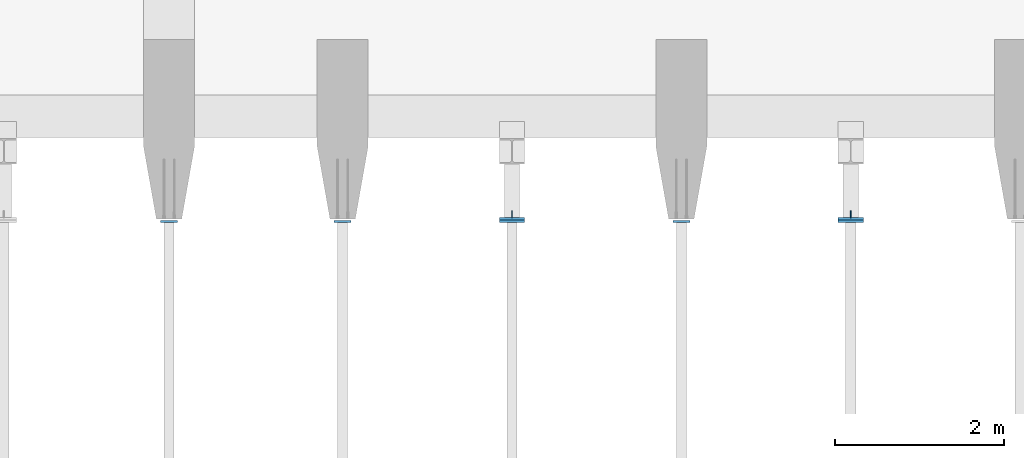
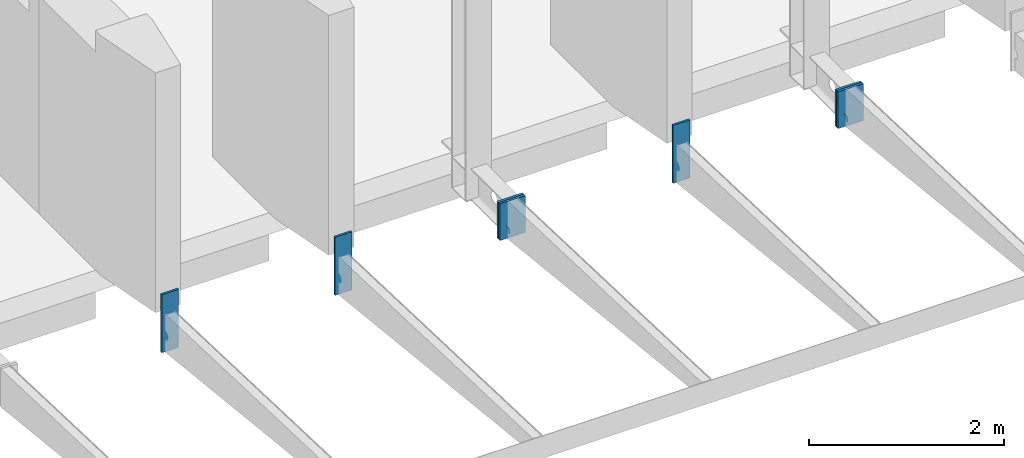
# One storey, part 4 of 27: 9 columns.
"""IFC2X3 building model written with IfcOpenShell, lengths in millimetres."""

import ifcopenshell
import ifcopenshell.guid

model = None  # the IFC model being written
_history = None  # IfcOwnerHistory: only IFC2X3 demands one
_inside = {}  # id of a spatial element -> (the spatial element, [elements in it])
_under = {}  # id of a project, library or spatial element -> (it, [spatial elements below it])
_declared = {}  # id of a project -> (the project, [libraries it declares])
_typed = {}  # id of a type object -> (the type object, [elements of that type])
_made_of = {}  # id of a material, layer set ... -> (it, [elements and type objects made of it])


def new_model(schema):
    """Start an empty IFC model of exactly this schema.

    Asked for "IFC4X3", IfcOpenShell would pick the latest addendum, in which some entities
    have other attributes; the version numbers below select the first issue.
    IFC2X3 requires an IfcOwnerHistory on every rooted entity: one is made here for all.
    """
    global model, _history
    if schema == "IFC4X3":
        model = ifcopenshell.file(schema_version=(4, 3, 0, 0))
    else:
        model = ifcopenshell.file(schema=schema)
    _inside.clear()
    _under.clear()
    _declared.clear()
    _typed.clear()
    _made_of.clear()
    _history = None
    if model.schema == "IFC2X3":
        org = make("IfcOrganization", Name="unknown")
        user = make(
            "IfcPersonAndOrganization",
            ThePerson=make("IfcPerson", FamilyName="unknown"),
            TheOrganization=org,
        )
        app = make(
            "IfcApplication",
            ApplicationDeveloper=org,
            Version="unknown",
            ApplicationFullName="unknown",
            ApplicationIdentifier="unknown",
        )
        _history = make(
            "IfcOwnerHistory",
            OwningUser=user,
            OwningApplication=app,
            ChangeAction="ADDED",
            CreationDate=0,
        )
    return model


def make(cls, **values):
    """One entity of the class cls with the attributes given. An attribute that is None is left unset."""
    return model.create_entity(
        cls, **{name: value for name, value in values.items() if value is not None}
    )


def entity(cls, *values):
    """Any entity or typed value of the class cls, its attributes in the order of the schema. None: left unset."""
    e = model.create_entity(cls)
    for i, value in enumerate(values):
        if value is not None:
            e[i] = value
    return e


def rooted(cls, **values):
    """An entity with a GlobalId (a new one), such as an element, a storey or a relation."""
    return make(cls, GlobalId=ifcopenshell.guid.new(), OwnerHistory=_history, **values)


def si_unit(unit_type, name, prefix=None):
    """IfcSIUnit, for example si_unit("LENGTHUNIT", "METRE", prefix="MILLI")."""
    return make("IfcSIUnit", UnitType=unit_type, Prefix=prefix, Name=name)


def converted_unit(unit_type, name, factor, base, dimensions=None, offset=None):
    """IfcConversionBasedUnit, such as the inch: factor (a typed value) times the base unit."""
    return make(
        "IfcConversionBasedUnit"
        if offset is None
        else "IfcConversionBasedUnitWithOffset",
        ConversionOffset=offset,
        Dimensions=None
        if dimensions is None
        else entity("IfcDimensionalExponents", *dimensions),
        UnitType=unit_type,
        Name=name,
        ConversionFactor=make(
            "IfcMeasureWithUnit", ValueComponent=factor, UnitComponent=base
        ),
    )


def derived_unit(unit_type, elements):
    """IfcDerivedUnit: a product of units, each with its exponent."""
    return make(
        "IfcDerivedUnit",
        Elements=[
            make("IfcDerivedUnitElement", Unit=unit, Exponent=power)
            for unit, power in elements
        ],
        UnitType=unit_type,
    )


def assignment(units):
    """IfcUnitAssignment: the units of a project."""
    return None if units is None else make("IfcUnitAssignment", Units=units)


def point(xyz):
    """IfcCartesianPoint."""
    return None if xyz is None else make("IfcCartesianPoint", Coordinates=xyz)


def direction(xyz):
    """IfcDirection."""
    return None if xyz is None else make("IfcDirection", DirectionRatios=xyz)


def frame(location, z_axis=None, x_axis=None):
    """IfcAxis2Placement3D, a coordinate frame: its origin and axes. An axis left out is left unset."""
    return make(
        "IfcAxis2Placement3D",
        Location=point(location),
        Axis=direction(z_axis),
        RefDirection=direction(x_axis),
    )


def frame_2d(location, x_axis=None):
    """IfcAxis2Placement2D, a coordinate frame in the plane: its origin and x axis."""
    return make(
        "IfcAxis2Placement2D", Location=point(location), RefDirection=direction(x_axis)
    )


def origin():
    """The frame at (0, 0, 0) with its axes left unset."""
    return frame((0.0, 0.0, 0.0))


def origin_2d_with_axis():
    """The frame at (0, 0) in the plane with the x axis (1, 0) written out."""
    return frame_2d((0.0, 0.0), x_axis=(1.0, 0.0))


def place(relative_to, where):
    """IfcLocalPlacement: puts the frame where relative to a parent placement (None: the world)."""
    return make(
        "IfcLocalPlacement", PlacementRelTo=relative_to, RelativePlacement=where
    )


def context(
    kind, dimensions, precision=None, world=None, true_north=None, identifier=None
):
    """IfcGeometricRepresentationContext, for example the 3D "Model" context."""
    return make(
        "IfcGeometricRepresentationContext",
        ContextIdentifier=identifier,
        ContextType=kind,
        CoordinateSpaceDimension=dimensions,
        Precision=precision,
        WorldCoordinateSystem=world,
        TrueNorth=true_north,
    )


def subcontext(parent, identifier, kind, view, scale=None):
    """IfcGeometricRepresentationSubContext, for example "Body" below "Model"."""
    return make(
        "IfcGeometricRepresentationSubContext",
        ContextIdentifier=identifier,
        ContextType=kind,
        ParentContext=parent,
        TargetScale=scale,
        TargetView=view,
    )


def project(units=None, contexts=None):
    """IfcProject with its units and contexts."""
    return rooted(
        "IfcProject",
        Name="project",
        RepresentationContexts=contexts,
        UnitsInContext=assignment(units),
    )


def spatial(cls, under=None, at=None, **own):
    """A site, building, storey or space (cls), placed at a placement, below another one or the project."""
    s = rooted(cls, ObjectPlacement=at, **own)
    if under is not None:
        _under.setdefault(under.id(), (under, []))[1].append(s)
    return s


def profile(cls, at=None, kind="AREA", **sizes):
    """A parametric profile (cls). Its sizes go by their IFC names, for example OverallWidth=200.0."""
    return make(cls, ProfileType=kind, Position=at, **sizes)


def rectangle(**sizes):
    """IfcRectangleProfileDef."""
    return profile("IfcRectangleProfileDef", **sizes)


def extrude(swept, where, along, depth):
    """IfcExtrudedAreaSolid: the profile swept, set in the frame where, extruded along a direction by depth."""
    return make(
        "IfcExtrudedAreaSolid",
        SweptArea=swept,
        Position=where,
        ExtrudedDirection=direction(along),
        Depth=depth,
    )


def clip(a, b, op="DIFFERENCE"):
    """IfcBooleanClippingResult: the solid a cut by the half space b."""
    return make(
        "IfcBooleanClippingResult", Operator=op, FirstOperand=a, SecondOperand=b
    )


def halfspace(plane, agree):
    """IfcHalfSpaceSolid: all space on one side of the plane z = 0 of the frame plane."""
    return make(
        "IfcHalfSpaceSolid",
        BaseSurface=make("IfcPlane", Position=plane),
        AgreementFlag=agree,
    )


def shape(context_of_items, identifier, shape_type, items):
    """IfcShapeRepresentation: the items that make up one representation, for example the "Body"."""
    return make(
        "IfcShapeRepresentation",
        ContextOfItems=context_of_items,
        RepresentationIdentifier=identifier,
        RepresentationType=shape_type,
        Items=items,
    )


def source(mapping_origin, context_of_items, identifier, shape_type, items):
    """IfcRepresentationMap: a shape defined once, which mapped items show again and again."""
    return make(
        "IfcRepresentationMap",
        MappingOrigin=mapping_origin,
        MappedRepresentation=shape(context_of_items, identifier, shape_type, items),
    )


def transform(
    local_origin,
    x_axis=None,
    y_axis=None,
    z_axis=None,
    scale=None,
    scale2=None,
    scale3=None,
    uniform=True,
):
    """IfcCartesianTransformationOperator3D, or its non-uniform kind. x_axis, y_axis, z_axis: its Axis1, 2, 3."""
    if uniform:
        return make(
            "IfcCartesianTransformationOperator3D",
            Axis1=direction(x_axis),
            Axis2=direction(y_axis),
            LocalOrigin=point(local_origin),
            Scale=scale,
            Axis3=direction(z_axis),
        )
    return make(
        "IfcCartesianTransformationOperator3DnonUniform",
        Axis1=direction(x_axis),
        Axis2=direction(y_axis),
        LocalOrigin=point(local_origin),
        Scale=scale,
        Axis3=direction(z_axis),
        Scale2=scale2,
        Scale3=scale3,
    )


def mapped(mapping_source, mapping_target):
    """IfcMappedItem: shows the shape of a source again, moved by a transform."""
    return make(
        "IfcMappedItem", MappingSource=mapping_source, MappingTarget=mapping_target
    )


def material(Name=None, Category=None):
    """IfcMaterial."""
    return make("IfcMaterial", Name=Name, Category=Category)


def made_of(thing, what):
    """Note that an element or type object is made of a material, layer set ...; save() writes the relation."""
    if what is not None:
        _made_of.setdefault(what.id(), (what, []))[1].append(thing)
    return thing


def type_object(cls, material=None, **own):
    """A type object (cls), such as IfcWallType, which elements share."""
    return made_of(rooted(cls, **own), material)


def type_shapes(of_type, sources):
    """Give a type object the sources (RepresentationMaps) that its elements show as mapped items."""
    of_type.RepresentationMaps = sources


def element(
    cls,
    number,
    at=None,
    inside=None,
    cuts=None,
    type_object=None,
    material=None,
    context=None,
    identifier="Body",
    shape_type=None,
    held_by="IfcProductDefinitionShape",
    body=None,
    shapes=None,
    **own,
):
    """One element of the class cls, such as IfcWall. Its Tag is "e" and its number.

    at: its placement. inside: the storey or other place that contains it. cuts: it is an
    opening in that element (IfcRelVoidsElement). A single representation is given by context,
    identifier, shape_type and body (its items); several are given by shapes. held_by: the class
    of the entity that holds the representations. save() writes the other relations.
    """
    e = rooted(cls, Tag="e%d" % number, ObjectPlacement=at, **own)
    if body is not None:
        shapes = [shape(context, identifier, shape_type, body)]
    if shapes is not None:
        e.Representation = make(held_by, Representations=shapes)
    if inside is not None:
        _inside.setdefault(inside.id(), (inside, []))[1].append(e)
    if cuts is not None:
        rooted(
            "IfcRelVoidsElement", RelatingBuildingElement=cuts, RelatedOpeningElement=e
        )
    if type_object is not None:
        _typed.setdefault(type_object.id(), (type_object, []))[1].append(e)
    return made_of(e, material)


def aggregate(whole, parts):
    """IfcRelAggregates: a whole, such as a stair, and the parts it consists of."""
    return rooted("IfcRelAggregates", RelatingObject=whole, RelatedObjects=parts)


def save(model, path):
    """Write the relations noted so far, then the file.

    IfcRelAggregates (storeys below a building ...), IfcRelContainedInSpatialStructure (elements
    in a storey), IfcRelDefinesByType, IfcRelAssociatesMaterial and IfcRelDeclares: one each for
    every whole, place, type object, material and project.
    """
    for whole, parts in _under.values():
        aggregate(whole, parts)
    for where, things in _inside.values():
        rooted(
            "IfcRelContainedInSpatialStructure",
            RelatedElements=things,
            RelatingStructure=where,
        )
    for kind, things in _typed.values():
        rooted("IfcRelDefinesByType", RelatedObjects=things, RelatingType=kind)
    for what, things in _made_of.values():
        rooted("IfcRelAssociatesMaterial", RelatedObjects=things, RelatingMaterial=what)
    for by, libraries in _declared.values():
        rooted("IfcRelDeclares", RelatingContext=by, RelatedDefinitions=libraries)
    model.write(path)


model = new_model("IFC2X3")

# Units and contexts
model_context = context("Model", 3, precision=0.01, world=origin(), true_north=direction((6.12303176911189e-17, 1.0)))
body_context = subcontext(model_context, "Body", "Model", "MODEL_VIEW")
ifc_project = project(units=[si_unit("LENGTHUNIT", "METRE", prefix="MILLI"), si_unit("AREAUNIT", "SQUARE_METRE"), si_unit("VOLUMEUNIT", "CUBIC_METRE"), converted_unit("PLANEANGLEUNIT", "DEGREE", entity("IfcRatioMeasure", 0.0174532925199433), si_unit("PLANEANGLEUNIT", "RADIAN"), dimensions=[0, 0, 0, 0, 0, 0, 0]), si_unit("MASSUNIT", "GRAM", prefix="KILO"), derived_unit("MASSDENSITYUNIT", [(si_unit("MASSUNIT", "GRAM", prefix="KILO"), 1), (si_unit("LENGTHUNIT", "METRE"), -3)]), si_unit("TIMEUNIT", "SECOND"), si_unit("FREQUENCYUNIT", "HERTZ"), si_unit("THERMODYNAMICTEMPERATUREUNIT", "DEGREE_CELSIUS"), derived_unit("THERMALTRANSMITTANCEUNIT", [(si_unit("MASSUNIT", "GRAM", prefix="KILO"), 1), (si_unit("THERMODYNAMICTEMPERATUREUNIT", "KELVIN"), -1), (si_unit("TIMEUNIT", "SECOND"), -3)]), derived_unit("VOLUMETRICFLOWRATEUNIT", [(si_unit("LENGTHUNIT", "METRE"), 3), (si_unit("TIMEUNIT", "SECOND"), -1)]), si_unit("ELECTRICCURRENTUNIT", "AMPERE"), si_unit("ELECTRICVOLTAGEUNIT", "VOLT"), si_unit("POWERUNIT", "WATT"), si_unit("FORCEUNIT", "NEWTON", prefix="KILO"), si_unit("ILLUMINANCEUNIT", "LUX"), si_unit("LUMINOUSFLUXUNIT", "LUMEN"), si_unit("LUMINOUSINTENSITYUNIT", "CANDELA"), derived_unit("USERDEFINED", [(si_unit("MASSUNIT", "GRAM", prefix="KILO"), -1), (si_unit("LENGTHUNIT", "METRE"), -2), (si_unit("TIMEUNIT", "SECOND"), 3), (si_unit("LUMINOUSFLUXUNIT", "LUMEN"), 1)]), derived_unit("LINEARVELOCITYUNIT", [(si_unit("LENGTHUNIT", "METRE"), 1), (si_unit("TIMEUNIT", "SECOND"), -1)]), si_unit("PRESSUREUNIT", "PASCAL"), derived_unit("USERDEFINED", [(si_unit("LENGTHUNIT", "METRE"), -2), (si_unit("MASSUNIT", "GRAM", prefix="KILO"), 1), (si_unit("TIMEUNIT", "SECOND"), -2)])], contexts=[model_context])

# Site, building, storey
site_placement = place(None, origin())
site = spatial("IfcSite", under=ifc_project, at=site_placement, Name="Default", CompositionType="ELEMENT")
building_placement = place(site_placement, origin())
building = spatial("IfcBuilding", under=site, at=building_placement, Name="niet gebruiken", CompositionType="ELEMENT")
storey_placement = place(building_placement, frame((0.0, 0.0, 6000.0)))
storey = spatial("IfcBuildingStorey", under=building, at=storey_placement, Name="01 eerste verdieping", CompositionType="ELEMENT", Elevation=6000.0)

# Columns
ifc_material = material(Name="NLRS_h2_staal")
column_type_1 = type_object("IfcColumnType", Name="kolom stripstaal RECT_200x25", PredefinedType="COLUMN", material=ifc_material)
shared_shape_1 = source(origin(), body_context, "Body", "SweptSolid", [
    extrude(rectangle(XDim=25.0, YDim=200.0, at=origin_2d_with_axis()), frame((0.0, 0.0, 5418.0), z_axis=(0.0, 0.0, 1.0), x_axis=(0.0, -1.0, 0.0)), (0.0, 0.0, 1.0), 726.999999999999),
])
type_shapes(column_type_1, [shared_shape_1])
for number, where, name in (
    (1, (141750.0, 117.500000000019, -6000.0), "NLRS_28.11_SCO_TLB_stalen kolom stripstaal_gen:kolom stripstaal RECT_200x25"),
    (2, (137750.0, 117.500000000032, -6000.0), "NLRS_28.11_SCO_TLB_stalen kolom stripstaal_gen:kolom stripstaal RECT_200x25"),
    (3, (135700.0, 117.500000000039, -6000.0), "NLRS_28.11_SCO_TLB_stalen kolom stripstaal_gen:kolom stripstaal RECT_200x25"),
):
    element("IfcColumn", number, at=place(storey_placement, frame(where)), inside=storey, type_object=column_type_1, material=ifc_material, Name=name, ObjectType="kolom stripstaal RECT_200x25", context=body_context, shape_type="MappedRepresentation", body=[
        mapped(shared_shape_1, transform((0.0, 0.0, 0.0), scale=1.0)),
    ])
column_type_2 = type_object("IfcColumnType", Name="kolom stripstaal RECT_300x30", PredefinedType="COLUMN", material=ifc_material)
shared_shape_2 = source(origin(), body_context, "Body", "SweptSolid", [
    extrude(rectangle(XDim=30.0, YDim=300.0, at=origin_2d_with_axis()), frame((0.0, 0.0, 5420.0), z_axis=(0.0, 0.0, 1.0), x_axis=(0.0, -1.0, 0.0)), (0.0, 0.0, 1.0), 460.0),
])
type_shapes(column_type_2, [shared_shape_2])
for number, where, name in (
    (4, (143750.0, 120.0, -6000.0), "NLRS_28.11_SCO_TLB_stalen kolom stripstaal_gen:kolom stripstaal RECT_300x30"),
    (5, (143750.0, 150.0, -6000.0), "NLRS_28.11_SCO_TLB_stalen kolom stripstaal_gen:kolom stripstaal RECT_300x30"),
    (6, (139750.0, 120.0, -6000.0), "NLRS_28.11_SCO_TLB_stalen kolom stripstaal_gen:kolom stripstaal RECT_300x30"),
    (7, (139750.0, 150.0, -6000.0), "NLRS_28.11_SCO_TLB_stalen kolom stripstaal_gen:kolom stripstaal RECT_300x30"),
):
    element("IfcColumn", number, at=place(storey_placement, frame(where)), inside=storey, type_object=column_type_2, material=ifc_material, Name=name, ObjectType="kolom stripstaal RECT_300x30", context=body_context, shape_type="MappedRepresentation", body=[
        mapped(shared_shape_2, transform((0.0, 0.0, 0.0), scale=1.0)),
    ])
column_type_3 = type_object("IfcColumnType", Name="kolom stripstaal RECT_80x10", PredefinedType="COLUMN", material=ifc_material)
shared_shape_3 = source(origin(), body_context, "Body", "Clipping", [
    clip(extrude(rectangle(XDim=9.99999999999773, YDim=80.0, at=frame_2d((0.0, 3.19744231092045e-14), x_axis=(1.0, 0.0))), frame((143750.0, 205.0, 5415.0)), (0.0, 0.0, 1.0), 64.9999999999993), halfspace(frame((143670.0, 185.500105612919, 5415.0001098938), z_axis=(0.0, 0.592802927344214, -0.805347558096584), x_axis=(1.0, 0.0, 0.0)), False)),
])
type_shapes(column_type_3, [shared_shape_3])
column_1_placement = place(storey_placement, frame((0.0, 0.0, -6000.0)))
element("IfcColumn", 8, at=column_1_placement, inside=storey, type_object=column_type_3, material=ifc_material, Name="NLRS_28.11_SCO_TLB_stalen kolom stripstaal_gen:kolom stripstaal RECT_80x10", ObjectType="kolom stripstaal RECT_80x10", context=body_context, shape_type="MappedRepresentation", body=[
    mapped(shared_shape_3, transform((0.0, 0.0, 0.0), scale=1.0)),
])
column_type_4 = type_object("IfcColumnType", Name="kolom stripstaal RECT_80x10", PredefinedType="COLUMN", material=ifc_material)
shared_shape_4 = source(origin(), body_context, "Body", "Clipping", [
    clip(extrude(rectangle(XDim=9.99999999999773, YDim=80.0, at=frame_2d((1.73256964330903e-11, 1.77635683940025e-14), x_axis=(1.0, 0.0))), frame((139750.0, 205.0, 5415.0)), (0.0, 0.0, 1.0), 64.9999999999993), halfspace(frame((139670.0, 185.500105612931, 5415.0001098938), z_axis=(0.0, 0.592802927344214, -0.805347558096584), x_axis=(1.0, 0.0, 0.0)), False)),
])
type_shapes(column_type_4, [shared_shape_4])
column_2_placement = place(storey_placement, frame((0.0, 0.0, -6000.0)))
element("IfcColumn", 9, at=column_2_placement, inside=storey, type_object=column_type_4, material=ifc_material, Name="NLRS_28.11_SCO_TLB_stalen kolom stripstaal_gen:kolom stripstaal RECT_80x10", ObjectType="kolom stripstaal RECT_80x10", context=body_context, shape_type="MappedRepresentation", body=[
    mapped(shared_shape_4, transform((0.0, 0.0, 0.0), scale=1.0)),
])

save(model, "model.ifc")
